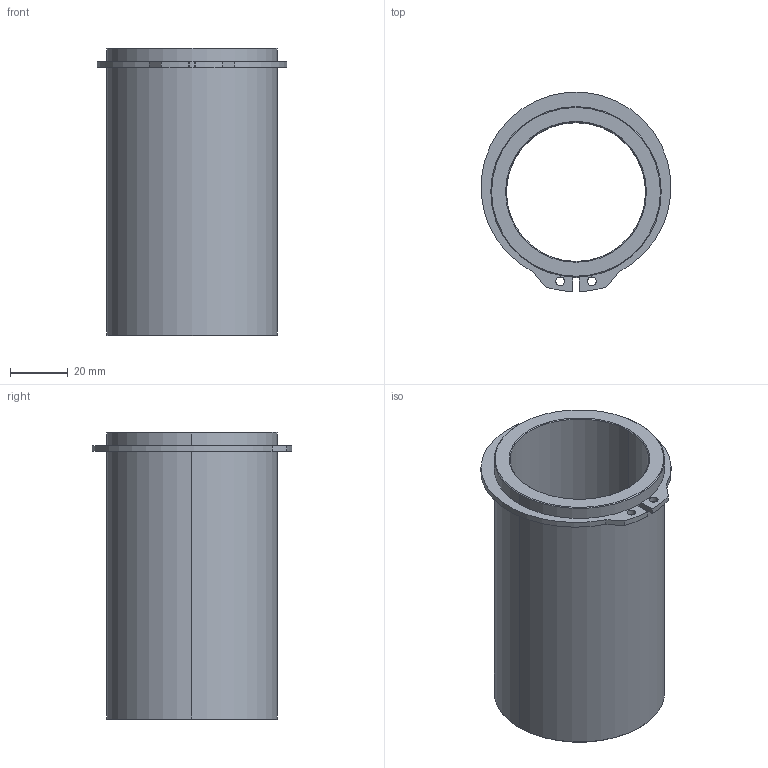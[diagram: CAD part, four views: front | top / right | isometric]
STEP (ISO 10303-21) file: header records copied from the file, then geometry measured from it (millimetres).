
FILE_DESCRIPTION((''),'2;1');
FILE_NAME('C13_048_100.stp','2008-12-17T16:08:22',(''),(''),'Mechanical Desktop 2009','Mechanical Desktop 2009',', , ');
FILE_SCHEMA(('CONFIG_CONTROL_DESIGN'));
Length unit declared in the file: millimetre
Products named in the file (2): Product; blmdl1
Assembly tree (1 placements, depth 2):
  Product
    blmdl1
Bounding box: 65.91 x 69.23 x 100 mm (x, y, z)
Volume: 93507.4 mm3; surface area: 38668.2 mm2
Topology: 2 solids, 2 shells, 34 faces, 76 edges, 48 vertices
Faces by surface type: cylinder 16, plane 10, cone 8
Entity records: 1075 total; most frequent: DIRECTION 188, CARTESIAN_POINT 160, ORIENTED_EDGE 152, AXIS2_PLACEMENT_3D 76, EDGE_CURVE 76, VERTEX_POINT 48, EDGE_LOOP 42, CIRCLE 40
